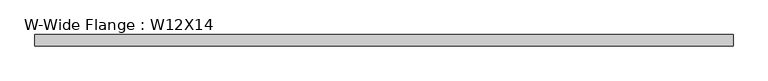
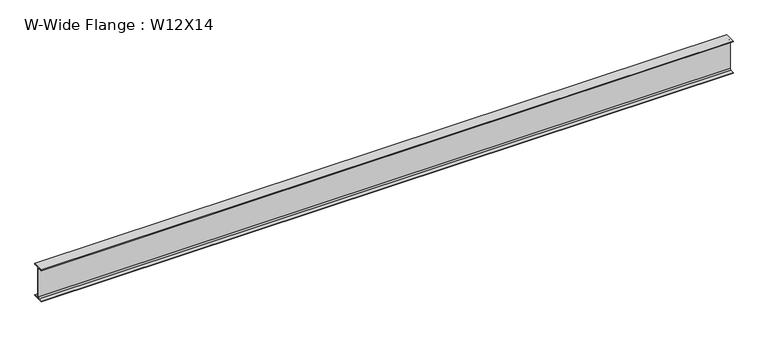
"""IFC4 building model written with IfcOpenShell, lengths in millimetres: beam geometry, W-Wide Flange : W12X14."""

from ifc_helpers import new_model, si_unit, point, frame, frame_2d, origin, place, context, project, spatial, polyline, circle_curve, trimmed, segment, composite_curve, outline, extrude, source, transform, mapped, element, save


def w_wide_flange_w12x14_701a969d(model_context):
    return source(origin(), model_context, "Body", "SweptSolid", [
        extrude(outline(composite_curve([segment(polyline([(50.419, -145.415), (50.419, -151.13), (-50.419, -151.13), (-50.419, -145.415), (-15.875, -145.415)]), True, "CONTINUOUS"), segment(trimmed(circle_curve(frame_2d((-15.875, -132.08)), 13.335), [point((-15.875, -145.415))], [point((-2.54, -132.08))], True, "CARTESIAN"), True, "CONTINUOUS"), segment(polyline([(-2.54, -132.08), (-2.54, 132.08)]), True, "CONTINUOUS"), segment(trimmed(circle_curve(frame_2d((-15.875, 132.08)), 13.335), [point((-2.54, 132.08))], [point((-15.875, 145.415))], True, "CARTESIAN"), True, "CONTINUOUS"), segment(polyline([(-15.875, 145.415), (-50.419, 145.415), (-50.419, 151.13), (50.419, 151.13), (50.419, 145.415), (15.875, 145.415)]), True, "CONTINUOUS"), segment(trimmed(circle_curve(frame_2d((15.875, 132.08)), 13.335), [point((15.875, 145.415))], [point((2.54, 132.08))], True, "CARTESIAN"), True, "CONTINUOUS"), segment(polyline([(2.54, 132.08), (2.54, -132.08)]), True, "CONTINUOUS"), segment(trimmed(circle_curve(frame_2d((15.875, -132.08)), 13.335), [point((2.54, -132.08))], [point((15.875, -145.415))], True, "CARTESIAN"), True, "CONTINUOUS"), segment(polyline([(15.875, -145.415), (50.419, -145.415)]), True, "CONTINUOUS")], self_intersect=False)), frame((-3038.475, 0.0, 0.0), z_axis=(1.0, 0.0, 0.0), x_axis=(0.0, 1.0, 0.0)), (0.0, 0.0, 1.0), 6201.9815),
    ])


if __name__ == "__main__":
    model = new_model("IFC4")
    model_context = context("Model", 3, world=origin())
    ifc_project = project(units=[si_unit("LENGTHUNIT", "METRE", prefix="MILLI")], contexts=[model_context])
    site = spatial("IfcSite", under=ifc_project)
    building = spatial("IfcBuilding", under=site)
    placement = place(None, origin())
    w_wide_flange_w12x14_shape = w_wide_flange_w12x14_701a969d(model_context)
    element("IfcBeam", 1, ObjectType="W-Wide Flange : W12X14", at=placement, inside=building, context=model_context, shape_type="MappedRepresentation", body=[
        mapped(w_wide_flange_w12x14_shape, transform((0.0, 0.0, 0.0), x_axis=(1.0, 0.0, 0.0), y_axis=(0.0, 1.0, 0.0), z_axis=(0.0, 0.0, 1.0))),
    ])
    save(model, "model.ifc")
